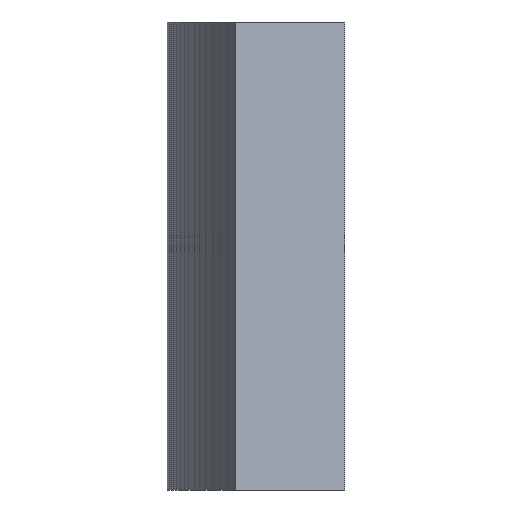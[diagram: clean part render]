
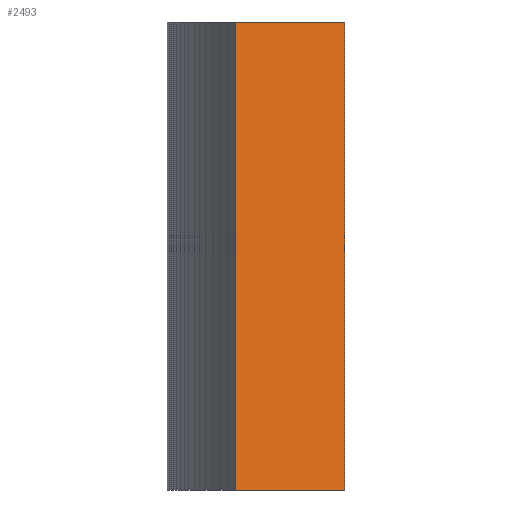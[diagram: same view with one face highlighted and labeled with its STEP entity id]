
A CAD part, left-side view. The second image highlights one B-rep face of the part: STEP entity #2493.
In plain terms, the highlighted planar face has unit normal (-0.951, -0.309, 0).
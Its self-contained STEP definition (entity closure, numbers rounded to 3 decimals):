
#72 = PLANE('',#73);
#73 = AXIS2_PLACEMENT_3D('',#74,#75,#76);
#74 = CARTESIAN_POINT('',(67.5,139.503,111.));
#75 = DIRECTION('',(0.,0.,1.));
#76 = DIRECTION('',(1.,0.,-0.));
#126 = PLANE('',#127);
#127 = AXIS2_PLACEMENT_3D('',#128,#129,#130);
#128 = CARTESIAN_POINT('',(67.5,139.503,103.));
#129 = DIRECTION('',(0.,0.,1.));
#130 = DIRECTION('',(1.,0.,-0.));
#2385 = PLANE('',#2386);
#2386 = AXIS2_PLACEMENT_3D('',#2387,#2388,#2389);
#2387 = CARTESIAN_POINT('',(60.533,139.88,103.));
#2388 = DIRECTION('',(0.3,-0.954,0.));
#2389 = DIRECTION('',(-0.954,-0.3,0.));
#2423 = VERTEX_POINT('',#2424);
#2424 = CARTESIAN_POINT('',(60.084,139.739,111.));
#2445 = EDGE_CURVE('',#2446,#2423,#2448,.T.);
#2446 = VERTEX_POINT('',#2447);
#2447 = CARTESIAN_POINT('',(60.084,139.739,103.));
#2448 = SURFACE_CURVE('',#2449,(#2453,#2460),.PCURVE_S1.);
#2449 = LINE('',#2450,#2451);
#2450 = CARTESIAN_POINT('',(60.084,139.739,103.));
#2451 = VECTOR('',#2452,1.);
#2452 = DIRECTION('',(0.,0.,1.));
#2453 = PCURVE('',#2385,#2454);
#2454 = DEFINITIONAL_REPRESENTATION('',(#2455),#2459);
#2455 = LINE('',#2456,#2457);
#2456 = CARTESIAN_POINT('',(0.471,0.));
#2457 = VECTOR('',#2458,1.);
#2458 = DIRECTION('',(0.,-1.));
#2459 = ( GEOMETRIC_REPRESENTATION_CONTEXT(2) 
PARAMETRIC_REPRESENTATION_CONTEXT() REPRESENTATION_CONTEXT('2D SPACE',''
  ) );
#2460 = PCURVE('',#2461,#2466);
#2461 = PLANE('',#2462);
#2462 = AXIS2_PLACEMENT_3D('',#2463,#2464,#2465);
#2463 = CARTESIAN_POINT('',(60.084,139.739,103.));
#2464 = DIRECTION('',(0.951,0.309,-0.));
#2465 = DIRECTION('',(0.309,-0.951,0.));
#2466 = DEFINITIONAL_REPRESENTATION('',(#2467),#2471);
#2467 = LINE('',#2468,#2469);
#2468 = CARTESIAN_POINT('',(0.,0.));
#2469 = VECTOR('',#2470,1.);
#2470 = DIRECTION('',(0.,-1.));
#2471 = ( GEOMETRIC_REPRESENTATION_CONTEXT(2) 
PARAMETRIC_REPRESENTATION_CONTEXT() REPRESENTATION_CONTEXT('2D SPACE',''
  ) );
#2493 = ADVANCED_FACE('',(#2494),#2461,.F.);
#2494 = FACE_BOUND('',#2495,.F.);
#2495 = EDGE_LOOP('',(#2496,#2497,#2520,#2548));
#2496 = ORIENTED_EDGE('',*,*,#2445,.T.);
#2497 = ORIENTED_EDGE('',*,*,#2498,.T.);
#2498 = EDGE_CURVE('',#2423,#2499,#2501,.T.);
#2499 = VERTEX_POINT('',#2500);
#2500 = CARTESIAN_POINT('',(60.689,137.875,111.));
#2501 = SURFACE_CURVE('',#2502,(#2506,#2513),.PCURVE_S1.);
#2502 = LINE('',#2503,#2504);
#2503 = CARTESIAN_POINT('',(60.084,139.739,111.));
#2504 = VECTOR('',#2505,1.);
#2505 = DIRECTION('',(0.309,-0.951,0.));
#2506 = PCURVE('',#2461,#2507);
#2507 = DEFINITIONAL_REPRESENTATION('',(#2508),#2512);
#2508 = LINE('',#2509,#2510);
#2509 = CARTESIAN_POINT('',(0.,-8.));
#2510 = VECTOR('',#2511,1.);
#2511 = DIRECTION('',(1.,0.));
#2512 = ( GEOMETRIC_REPRESENTATION_CONTEXT(2) 
PARAMETRIC_REPRESENTATION_CONTEXT() REPRESENTATION_CONTEXT('2D SPACE',''
  ) );
#2513 = PCURVE('',#72,#2514);
#2514 = DEFINITIONAL_REPRESENTATION('',(#2515),#2519);
#2515 = LINE('',#2516,#2517);
#2516 = CARTESIAN_POINT('',(-7.416,0.236));
#2517 = VECTOR('',#2518,1.);
#2518 = DIRECTION('',(0.309,-0.951));
#2519 = ( GEOMETRIC_REPRESENTATION_CONTEXT(2) 
PARAMETRIC_REPRESENTATION_CONTEXT() REPRESENTATION_CONTEXT('2D SPACE',''
  ) );
#2520 = ORIENTED_EDGE('',*,*,#2521,.F.);
#2521 = EDGE_CURVE('',#2522,#2499,#2524,.T.);
#2522 = VERTEX_POINT('',#2523);
#2523 = CARTESIAN_POINT('',(60.689,137.875,103.));
#2524 = SURFACE_CURVE('',#2525,(#2529,#2536),.PCURVE_S1.);
#2525 = LINE('',#2526,#2527);
#2526 = CARTESIAN_POINT('',(60.689,137.875,103.));
#2527 = VECTOR('',#2528,1.);
#2528 = DIRECTION('',(0.,0.,1.));
#2529 = PCURVE('',#2461,#2530);
#2530 = DEFINITIONAL_REPRESENTATION('',(#2531),#2535);
#2531 = LINE('',#2532,#2533);
#2532 = CARTESIAN_POINT('',(1.96,0.));
#2533 = VECTOR('',#2534,1.);
#2534 = DIRECTION('',(0.,-1.));
#2535 = ( GEOMETRIC_REPRESENTATION_CONTEXT(2) 
PARAMETRIC_REPRESENTATION_CONTEXT() REPRESENTATION_CONTEXT('2D SPACE',''
  ) );
#2536 = PCURVE('',#2537,#2542);
#2537 = PLANE('',#2538);
#2538 = AXIS2_PLACEMENT_3D('',#2539,#2540,#2541);
#2539 = CARTESIAN_POINT('',(60.689,137.875,103.));
#2540 = DIRECTION('',(-0.3,0.954,0.));
#2541 = DIRECTION('',(0.954,0.3,0.));
#2542 = DEFINITIONAL_REPRESENTATION('',(#2543),#2547);
#2543 = LINE('',#2544,#2545);
#2544 = CARTESIAN_POINT('',(0.,0.));
#2545 = VECTOR('',#2546,1.);
#2546 = DIRECTION('',(0.,-1.));
#2547 = ( GEOMETRIC_REPRESENTATION_CONTEXT(2) 
PARAMETRIC_REPRESENTATION_CONTEXT() REPRESENTATION_CONTEXT('2D SPACE',''
  ) );
#2548 = ORIENTED_EDGE('',*,*,#2549,.F.);
#2549 = EDGE_CURVE('',#2446,#2522,#2550,.T.);
#2550 = SURFACE_CURVE('',#2551,(#2555,#2562),.PCURVE_S1.);
#2551 = LINE('',#2552,#2553);
#2552 = CARTESIAN_POINT('',(60.084,139.739,103.));
#2553 = VECTOR('',#2554,1.);
#2554 = DIRECTION('',(0.309,-0.951,0.));
#2555 = PCURVE('',#2461,#2556);
#2556 = DEFINITIONAL_REPRESENTATION('',(#2557),#2561);
#2557 = LINE('',#2558,#2559);
#2558 = CARTESIAN_POINT('',(0.,0.));
#2559 = VECTOR('',#2560,1.);
#2560 = DIRECTION('',(1.,0.));
#2561 = ( GEOMETRIC_REPRESENTATION_CONTEXT(2) 
PARAMETRIC_REPRESENTATION_CONTEXT() REPRESENTATION_CONTEXT('2D SPACE',''
  ) );
#2562 = PCURVE('',#126,#2563);
#2563 = DEFINITIONAL_REPRESENTATION('',(#2564),#2568);
#2564 = LINE('',#2565,#2566);
#2565 = CARTESIAN_POINT('',(-7.416,0.236));
#2566 = VECTOR('',#2567,1.);
#2567 = DIRECTION('',(0.309,-0.951));
#2568 = ( GEOMETRIC_REPRESENTATION_CONTEXT(2) 
PARAMETRIC_REPRESENTATION_CONTEXT() REPRESENTATION_CONTEXT('2D SPACE',''
  ) );
